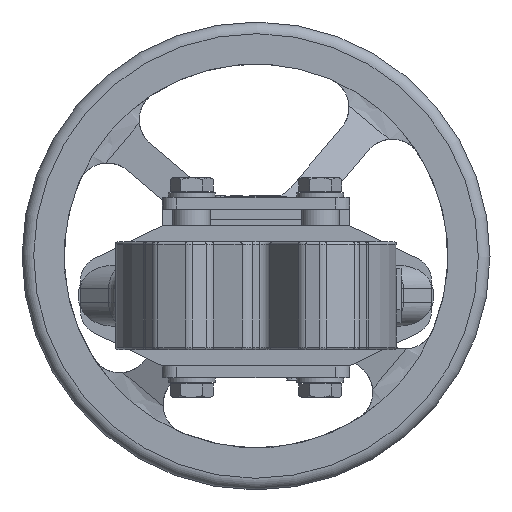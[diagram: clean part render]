
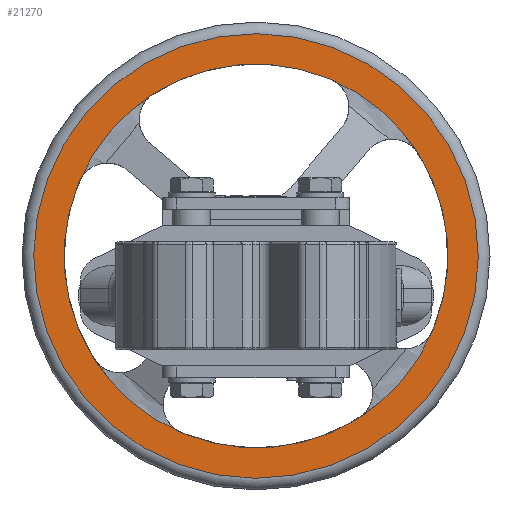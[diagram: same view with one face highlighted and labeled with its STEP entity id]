
A CAD part, front view. The second image highlights one B-rep face of the part: STEP entity #21270.
In plain terms, the highlighted planar face has unit normal (0, -1, 0).
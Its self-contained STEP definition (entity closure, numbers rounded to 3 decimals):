
#17648=CARTESIAN_POINT('',(-31.569,326.0,-58.68));
#17649=VERTEX_POINT('',#17648);
#18311=CARTESIAN_POINT('',(75.68,326.,-14.569));
#18312=VERTEX_POINT('',#18311);
#18971=CARTESIAN_POINT('',(31.569,326.,92.68));
#18972=VERTEX_POINT('',#18971);
#19476=CARTESIAN_POINT('',(-69.37,326.,-26.724));
#19477=VERTEX_POINT('',#19476);
#19497=CARTESIAN_POINT('',(0.,326.,17.));
#19498=DIRECTION('',(0.,1.0,0.));
#19499=DIRECTION('',(0.646,0.,0.764));
#19500=AXIS2_PLACEMENT_3D('',#19497,#19498,#19499);
#19501=CIRCLE('',#19500,82.0);
#19502=EDGE_CURVE('',#17649,#19477,#19501,.T.);
#19666=CARTESIAN_POINT('',(43.724,326.,-52.37));
#19667=VERTEX_POINT('',#19666);
#19687=CARTESIAN_POINT('',(0.,326.,17.));
#19688=DIRECTION('',(0.,1.0,0.));
#19689=DIRECTION('',(0.646,0.,0.764));
#19690=AXIS2_PLACEMENT_3D('',#19687,#19688,#19689);
#19691=CIRCLE('',#19690,82.0);
#19692=EDGE_CURVE('',#18312,#19667,#19691,.T.);
#19856=CARTESIAN_POINT('',(69.37,326.,60.724));
#19857=VERTEX_POINT('',#19856);
#19877=CARTESIAN_POINT('',(0.,326.,17.));
#19878=DIRECTION('',(0.,1.0,0.));
#19879=DIRECTION('',(0.646,0.,0.764));
#19880=AXIS2_PLACEMENT_3D('',#19877,#19878,#19879);
#19881=CIRCLE('',#19880,82.0);
#19882=EDGE_CURVE('',#18972,#19857,#19881,.T.);
#19904=CARTESIAN_POINT('',(0.,326.,17.));
#19905=DIRECTION('',(0.,1.0,0.));
#19906=DIRECTION('',(0.646,0.,0.764));
#19907=AXIS2_PLACEMENT_3D('',#19904,#19905,#19906);
#19908=CIRCLE('',#19907,82.0);
#19909=EDGE_CURVE('',#19667,#17649,#19908,.T.);
#19914=CARTESIAN_POINT('',(0.,326.,17.));
#19915=DIRECTION('',(0.,1.0,0.));
#19916=DIRECTION('',(0.646,0.,0.764));
#19917=AXIS2_PLACEMENT_3D('',#19914,#19915,#19916);
#19918=CIRCLE('',#19917,82.0);
#19919=EDGE_CURVE('',#19857,#18312,#19918,.T.);
#19929=CARTESIAN_POINT('',(-43.724,326.0,86.37));
#19930=VERTEX_POINT('',#19929);
#19931=CARTESIAN_POINT('',(0.,326.,17.));
#19932=DIRECTION('',(0.,1.0,0.));
#19933=DIRECTION('',(0.646,0.,0.764));
#19934=AXIS2_PLACEMENT_3D('',#19931,#19932,#19933);
#19935=CIRCLE('',#19934,82.0);
#19936=EDGE_CURVE('',#19930,#18972,#19935,.T.);
#19955=CARTESIAN_POINT('',(-75.68,326.,48.569));
#19956=VERTEX_POINT('',#19955);
#19963=CARTESIAN_POINT('',(0.,326.,17.));
#19964=DIRECTION('',(0.,1.0,0.));
#19965=DIRECTION('',(0.646,0.,0.764));
#19966=AXIS2_PLACEMENT_3D('',#19963,#19964,#19965);
#19967=CIRCLE('',#19966,82.0);
#19968=EDGE_CURVE('',#19477,#19956,#19967,.T.);
#21214=CARTESIAN_POINT('',(-61.331,326.,-55.55));
#21215=VERTEX_POINT('',#21214);
#21216=CARTESIAN_POINT('',(0.,326.,17.));
#21217=DIRECTION('',(0.,1.0,0.));
#21218=DIRECTION('',(0.646,0.,0.764));
#21219=AXIS2_PLACEMENT_3D('',#21216,#21217,#21218);
#21220=CIRCLE('',#21219,95.0);
#21221=EDGE_CURVE('',#21215,#21215,#21220,.T.);
#21246=CARTESIAN_POINT('',(0.,326.,17.));
#21247=DIRECTION('',(0.0,1.0,0.0));
#21248=DIRECTION('',(-0.646,0.0,-0.764));
#21249=AXIS2_PLACEMENT_3D('',#21246,#21247,#21248);
#21250=PLANE('',#21249);
#21251=ORIENTED_EDGE('',*,*,#21221,.F.);
#21252=EDGE_LOOP('',(#21251));
#21253=FACE_OUTER_BOUND('',#21252,.T.);
#21254=ORIENTED_EDGE('',*,*,#19936,.T.);
#21255=ORIENTED_EDGE('',*,*,#19882,.T.);
#21256=ORIENTED_EDGE('',*,*,#19919,.T.);
#21257=ORIENTED_EDGE('',*,*,#19692,.T.);
#21258=ORIENTED_EDGE('',*,*,#19909,.T.);
#21259=ORIENTED_EDGE('',*,*,#19502,.T.);
#21260=ORIENTED_EDGE('',*,*,#19968,.T.);
#21261=CARTESIAN_POINT('',(0.,326.,17.));
#21262=DIRECTION('',(0.,1.0,0.));
#21263=DIRECTION('',(0.646,0.,0.764));
#21264=AXIS2_PLACEMENT_3D('',#21261,#21262,#21263);
#21265=CIRCLE('',#21264,82.0);
#21266=EDGE_CURVE('',#19956,#19930,#21265,.T.);
#21267=ORIENTED_EDGE('',*,*,#21266,.T.);
#21268=EDGE_LOOP('',(#21254,#21255,#21256,#21257,#21258,#21259,#21260,#21267));
#21269=FACE_BOUND('',#21268,.T.);
#21270=ADVANCED_FACE('',(#21253,#21269),#21250,.F.);
